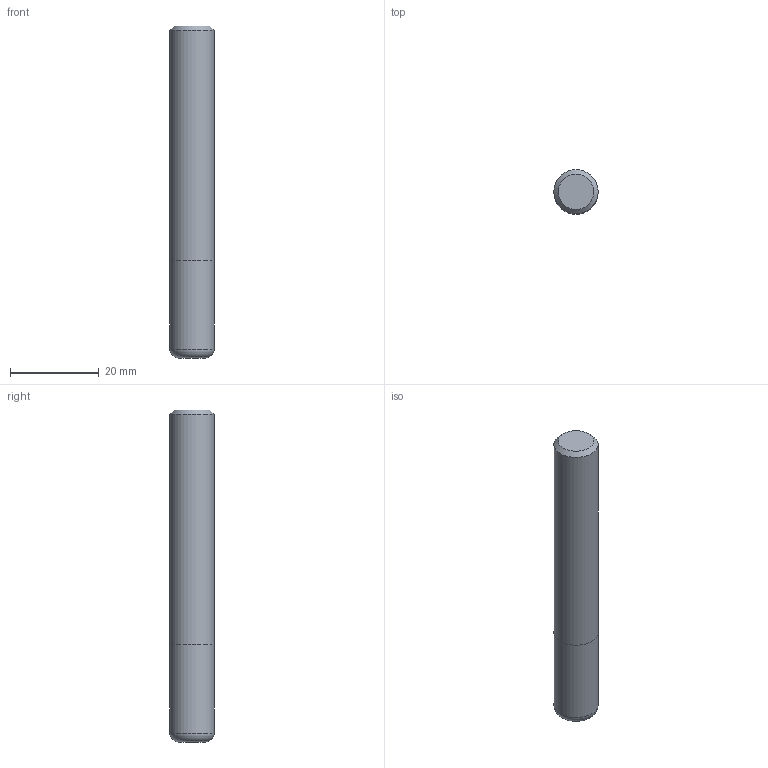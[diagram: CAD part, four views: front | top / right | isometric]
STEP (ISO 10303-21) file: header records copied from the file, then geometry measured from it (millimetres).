
FILE_DESCRIPTION((''),'2;1');
FILE_NAME('C:\Users\nsx150\AppData\Local\Temp\Mastercam 2021\0KY4AY0TVG\TEMP.step','2021-10-21T14:42:04',(''),(''),'STEP Write','Mastercam 2021 ... CNC Software, Inc.','');
FILE_SCHEMA(('AUTOMOTIVE_DESIGN'));
Length unit declared in the file: millimetre
Products named in the file (1): None
Bounding box: 10 x 10 x 75 mm (x, y, z)
Volume: 5851.3 mm3; surface area: 2621.9 mm2
Topology: 2 solids, 2 shells, 8 faces, 10 edges, 6 vertices
Faces by surface type: plane 4, cylinder 2, torus 1, cone 1
Full cylindrical faces by diameter (mm): 10 x2
Entity records: 190 total; most frequent: DIRECTION 32, CARTESIAN_POINT 22, AXIS2_PLACEMENT_3D 16, ORIENTED_EDGE 12, EDGE_LOOP 12, STYLED_ITEM 11, ADVANCED_FACE 8, FACE_BOUND 7
